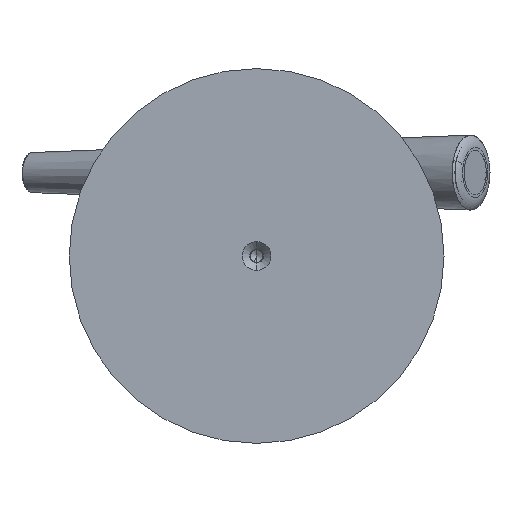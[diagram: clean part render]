
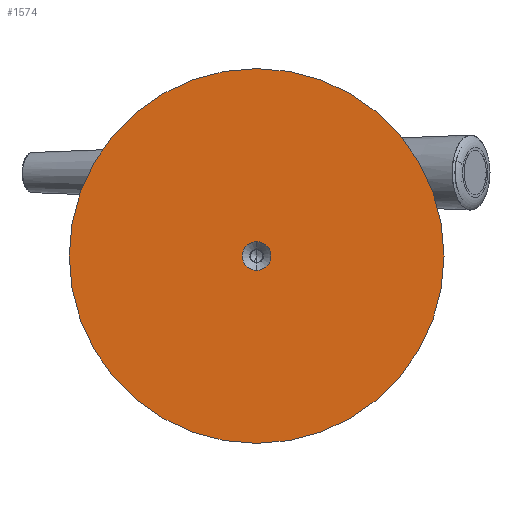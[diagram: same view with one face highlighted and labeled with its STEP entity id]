
A CAD part, front view. The second image highlights one B-rep face of the part: STEP entity #1574.
In plain terms, the highlighted planar face has unit normal (0, -1, 0).
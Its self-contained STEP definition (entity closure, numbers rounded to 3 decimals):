
#554 = CARTESIAN_POINT ( 'NONE',  ( -16.268, -8.997, 89.697 ) ) ;
#1109 = CIRCLE ( 'NONE', #17018, 5.75 ) ;
#1290 = EDGE_CURVE ( 'NONE', #11146, #16052, #13086, .T. ) ;
#1294 = DIRECTION ( 'NONE',  ( 0., 1., 0. ) ) ;
#1574 = ADVANCED_FACE ( 'NONE', ( #10124, #15800 ), #3139, .F. ) ;
#2106 = EDGE_CURVE ( 'NONE', #16052, #11146, #8918, .T. ) ;
#2825 = DIRECTION ( 'NONE',  ( 0., 1., 0. ) ) ;
#3139 = PLANE ( 'NONE',  #10678 ) ;
#3403 = ORIENTED_EDGE ( 'NONE', *, *, #15906, .T. ) ;
#3746 = DIRECTION ( 'NONE',  ( 0., 0., 1. ) ) ;
#3989 = CARTESIAN_POINT ( 'NONE',  ( -16.268, -8.997, 14.697 ) ) ;
#4319 = CIRCLE ( 'NONE', #5504, 5.75 ) ;
#5504 = AXIS2_PLACEMENT_3D ( 'NONE', #9515, #2825, #15201 ) ;
#6623 = ORIENTED_EDGE ( 'NONE', *, *, #1290, .F. ) ;
#7208 = CARTESIAN_POINT ( 'NONE',  ( -16.268, -8.997, 20.447 ) ) ;
#8177 = DIRECTION ( 'NONE',  ( 0., 0., 1. ) ) ;
#8918 = CIRCLE ( 'NONE', #9218, 75. ) ;
#9218 = AXIS2_PLACEMENT_3D ( 'NONE', #3989, #9578, #18090 ) ;
#9343 = CARTESIAN_POINT ( 'NONE',  ( -16.268, -8.997, 14.697 ) ) ;
#9515 = CARTESIAN_POINT ( 'NONE',  ( -16.268, -8.997, 14.697 ) ) ;
#9578 = DIRECTION ( 'NONE',  ( 0., 1., 0. ) ) ;
#10124 = FACE_BOUND ( 'NONE', #13919, .T. ) ;
#10410 = DIRECTION ( 'NONE',  ( 0., 0., 1. ) ) ;
#10678 = AXIS2_PLACEMENT_3D ( 'NONE', #17606, #13199, #10410 ) ;
#11146 = VERTEX_POINT ( 'NONE', #17288 ) ;
#11196 = EDGE_LOOP ( 'NONE', ( #6623, #16549 ) ) ;
#11236 = VERTEX_POINT ( 'NONE', #16750 ) ;
#12134 = VERTEX_POINT ( 'NONE', #7208 ) ;
#13086 = CIRCLE ( 'NONE', #16923, 75. ) ;
#13199 = DIRECTION ( 'NONE',  ( 0., 1., 0. ) ) ;
#13649 = ORIENTED_EDGE ( 'NONE', *, *, #17305, .T. ) ;
#13919 = EDGE_LOOP ( 'NONE', ( #13649, #3403 ) ) ;
#15201 = DIRECTION ( 'NONE',  ( 0., 0., 1. ) ) ;
#15249 = CARTESIAN_POINT ( 'NONE',  ( -16.268, -8.997, 14.697 ) ) ;
#15800 = FACE_OUTER_BOUND ( 'NONE', #11196, .T. ) ;
#15906 = EDGE_CURVE ( 'NONE', #12134, #11236, #1109, .T. ) ;
#16052 = VERTEX_POINT ( 'NONE', #554 ) ;
#16549 = ORIENTED_EDGE ( 'NONE', *, *, #2106, .F. ) ;
#16750 = CARTESIAN_POINT ( 'NONE',  ( -16.268, -8.997, 8.947 ) ) ;
#16923 = AXIS2_PLACEMENT_3D ( 'NONE', #9343, #17851, #3746 ) ;
#17018 = AXIS2_PLACEMENT_3D ( 'NONE', #15249, #1294, #8177 ) ;
#17288 = CARTESIAN_POINT ( 'NONE',  ( -16.268, -8.997, -60.303 ) ) ;
#17305 = EDGE_CURVE ( 'NONE', #11236, #12134, #4319, .T. ) ;
#17606 = CARTESIAN_POINT ( 'NONE',  ( -16.268, -8.997, 14.697 ) ) ;
#17851 = DIRECTION ( 'NONE',  ( 0., 1., 0. ) ) ;
#18090 = DIRECTION ( 'NONE',  ( 0., 0., 1. ) ) ;
